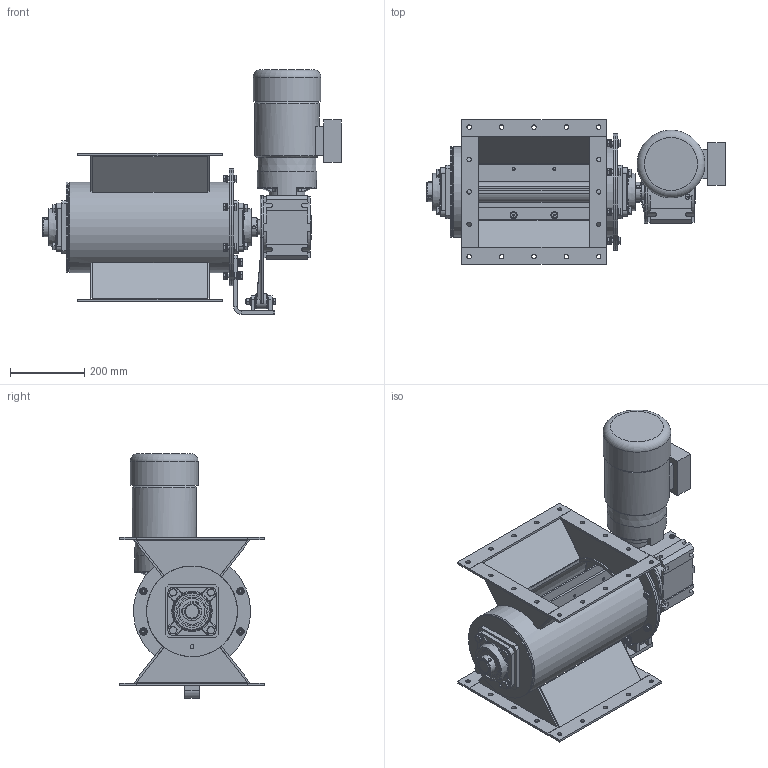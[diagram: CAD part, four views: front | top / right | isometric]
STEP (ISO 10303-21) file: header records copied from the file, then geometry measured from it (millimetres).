
FILE_DESCRIPTION((''),'2;1');
FILE_NAME('D:\TURNIKET.stp','2012-10-18T21:09:41',('juraj'),(''),'Autodesk Inventor 2012','Autodesk Inventor 2012','');
FILE_SCHEMA(('AUTOMOTIVE_DESIGN { 1 0 10303 214 1 1 1 1 }'));
Length unit declared in the file: millimetre
Products named in the file (34): TT03-00; TT03-0100; TT02-0101; TT02-0102; TT02-0104; TT03-0106; TT02-0107-00; TT02-0107-01; TT02-0107-02; TT03-0200; TT03-0201; TT03-0202; TT03-0203; TT03-0300; TT03-0301; TT03-0305; TT03-0304; TT03-0303; BOLT-DIN7991-M8x16; BOLT-DIN933-M10x30; WASHER-DIN125-A-10; WASHER-DIN7980-10; NUT-DIN 934 - M10; DRIVE-NORD-SK1SI75D-IEC90-90S4; TT03-0400_ALT1; TT03-0401_ALT1; TT02-0402_ALT1; BOLT-DIN933-M12 x25; WASHER-DIN7980-12; WASHER-DIN125-12; SKF-UCF_208; BOLT-DIN933-M10x70; PERO_10x8-100
Assembly tree (128 placements, depth 4):
  TT03-00
    TT03-0100
      TT02-0101
      TT02-0102  x4
      TT02-0104  x4
      TT03-0106
      TT02-0107-00  x2
        TT02-0107-01
        TT02-0107-02
    TT03-0200
      TT03-0201
      TT03-0202
    TT03-0201
      TT03-0203
      TT03-0202
    TT03-0300
      TT03-0301
      TT03-0305  x4
      TT03-0304  x4
      TT03-0303  x4
      BOLT-DIN7991-M8x16  x16
    BOLT-DIN933-M10x30  x8
    WASHER-DIN125-A-10  x18
    WASHER-DIN7980-10  x9
    NUT-DIN 934 - M10  x9
    DRIVE-NORD-SK1SI75D-IEC90-90S4
    TT03-0400_ALT1
      TT03-0401_ALT1
      TT02-0402_ALT1  x2
    BOLT-DIN933-M12 x25  x10
    WASHER-DIN7980-12  x10
    WASHER-DIN125-12  x2
    SKF-UCF_208  x2
    BOLT-DIN933-M10x70
    PERO_10x8-100
Bounding box: 807 x 390 x 661 mm (x, y, z)
Volume: 20764800.9 mm3; surface area: 3359890.7 mm2
Topology: 125 solids, 136 shells, 1947 faces, 4497 edges, 2909 vertices
Faces by surface type: plane 1057, cylinder 494, cone 315, torus 49, bspline 32
Full cylindrical faces by diameter (mm): 6 x4, 6.4 x2, 6.647 x16, 8 x20, 8.376 x9, 9 x36, 9.188 x9, 9.59 x8, 9.6 x8, 10 x9, 10.106 x12, 10.5 x19, 11.459 x10, 12 x60, 12.5 x2, 13 x8, 14 x2, 15.24 x16, 15.4 x9, 16 x8, 17.2 x10, 20 x18, 24 x2, 25 x2, 35 x1, 40 x5, 51.8 x4, 55 x1, 56 x4, 60 x2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
Entity records: 24818 total; most frequent: CARTESIAN_POINT 4891, DIRECTION 3974, ORIENTED_EDGE 3304, EDGE_CURVE 1652, AXIS2_PLACEMENT_3D 1547, VERTEX_POINT 1192, EDGE_LOOP 1190, VECTOR 880
